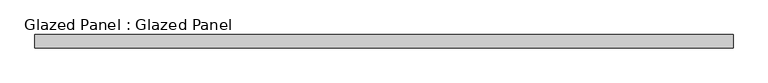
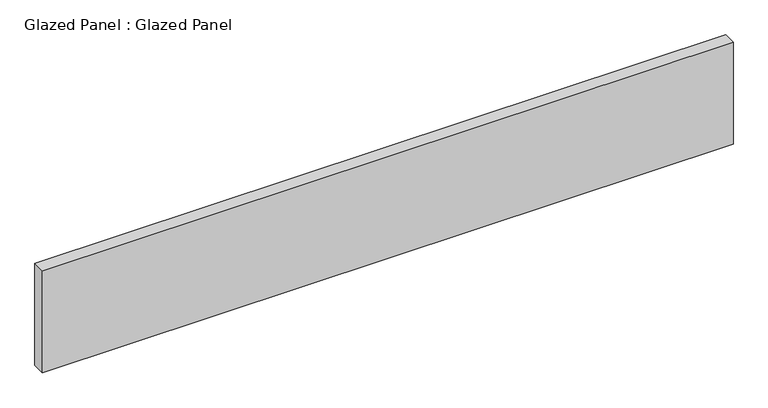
"""IFC4 building model written with IfcOpenShell, lengths in millimetres: plate geometry, Glazed Panel : Glazed Panel."""

from ifc_helpers import new_model, si_unit, origin, origin_with_axes, place, context, project, spatial, polyline, outline, extrude, source, transform, mapped, element, save


def glazed_panel_glazed_panel_50b95296(model_context):
    return source(origin(), model_context, "Body", "SweptSolid", [
        extrude(outline(polyline([(670.71875, 38.1), (-670.71875, 38.1), (-670.71875, 63.5), (670.71875, 63.5), (670.71875, 38.1)])), origin_with_axes(), (0.0, 0.0, 1.0), 209.55),
    ])


if __name__ == "__main__":
    model = new_model("IFC4")
    model_context = context("Model", 3, world=origin())
    ifc_project = project(units=[si_unit("LENGTHUNIT", "METRE", prefix="MILLI")], contexts=[model_context])
    site = spatial("IfcSite", under=ifc_project)
    building = spatial("IfcBuilding", under=site)
    placement = place(None, origin())
    glazed_panel_glazed_panel_shape = glazed_panel_glazed_panel_50b95296(model_context)
    element("IfcPlate", 1, ObjectType="Glazed Panel : Glazed Panel", at=placement, inside=building, context=model_context, shape_type="MappedRepresentation", body=[
        mapped(glazed_panel_glazed_panel_shape, transform((0.0, 0.0, 0.0), x_axis=(1.0, 0.0, 0.0), y_axis=(0.0, 1.0, 0.0), z_axis=(0.0, 0.0, 1.0))),
    ])
    save(model, "model.ifc")
